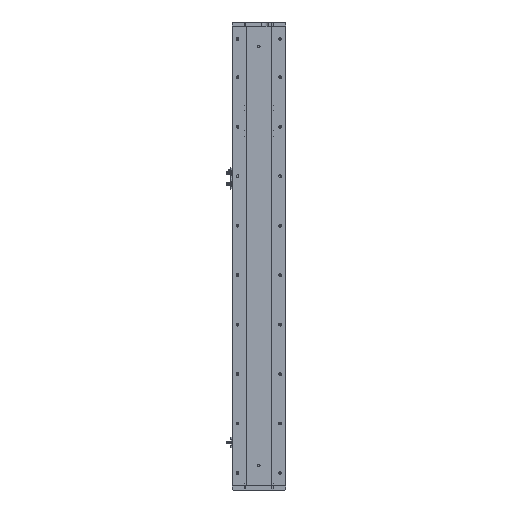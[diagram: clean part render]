
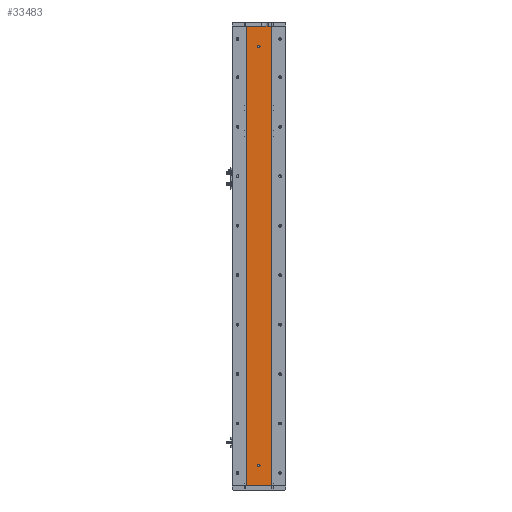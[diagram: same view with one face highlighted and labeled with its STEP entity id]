
A CAD part, left-side view. The second image highlights one B-rep face of the part: STEP entity #33483.
In plain terms, the highlighted planar face has unit normal (-1, 0, 0).
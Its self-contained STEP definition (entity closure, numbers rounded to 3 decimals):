
#201 = CARTESIAN_POINT ( 'NONE',  ( -24.994, 0., 53. ) ) ;
#299 = ORIENTED_EDGE ( 'NONE', *, *, #13416, .F. ) ;
#508 = VERTEX_POINT ( 'NONE', #2919 ) ;
#968 = VERTEX_POINT ( 'NONE', #34479 ) ;
#1280 = VECTOR ( 'NONE', #21510, 1000. ) ;
#1283 = CIRCLE ( 'NONE', #23240, 3. ) ;
#1422 = CARTESIAN_POINT ( 'NONE',  ( -24.994, -29.785, 1115. ) ) ;
#1462 = ORIENTED_EDGE ( 'NONE', *, *, #9052, .F. ) ;
#1669 = AXIS2_PLACEMENT_3D ( 'NONE', #33592, #33749, #34684 ) ;
#2054 = CIRCLE ( 'NONE', #12830, 3. ) ;
#2090 = DIRECTION ( 'NONE',  ( -1., 0., 0. ) ) ;
#2462 = ORIENTED_EDGE ( 'NONE', *, *, #11232, .T. ) ;
#2919 = CARTESIAN_POINT ( 'NONE',  ( -24.994, 29.785, 1115. ) ) ;
#3414 = ORIENTED_EDGE ( 'NONE', *, *, #29045, .F. ) ;
#3775 = LINE ( 'NONE', #30550, #18252 ) ;
#4958 = DIRECTION ( 'NONE',  ( -1., 0., 0. ) ) ;
#5380 = EDGE_CURVE ( 'NONE', #968, #12588, #22991, .T. ) ;
#5494 = FACE_OUTER_BOUND ( 'NONE', #8809, .T. ) ;
#5618 = EDGE_CURVE ( 'NONE', #22829, #7641, #32084, .T. ) ;
#6418 = FACE_BOUND ( 'NONE', #28730, .T. ) ;
#6920 = DIRECTION ( 'NONE',  ( 1., 0., 0. ) ) ;
#7641 = VERTEX_POINT ( 'NONE', #29820 ) ;
#7647 = CARTESIAN_POINT ( 'NONE',  ( -24.994, 0., 1065. ) ) ;
#7930 = DIRECTION ( 'NONE',  ( 0., 0., 1. ) ) ;
#7980 = DIRECTION ( 'NONE',  ( -1., 0., 0. ) ) ;
#8809 = EDGE_LOOP ( 'NONE', ( #16248, #29588, #1462, #2462 ) ) ;
#8945 = LINE ( 'NONE', #30158, #1280 ) ;
#9052 = EDGE_CURVE ( 'NONE', #508, #13375, #8945, .T. ) ;
#10930 = VERTEX_POINT ( 'NONE', #37528 ) ;
#11232 = EDGE_CURVE ( 'NONE', #508, #10930, #3775, .T. ) ;
#12492 = VERTEX_POINT ( 'NONE', #31545 ) ;
#12588 = VERTEX_POINT ( 'NONE', #201 ) ;
#12772 = CARTESIAN_POINT ( 'NONE',  ( -24.994, 0., 1068. ) ) ;
#12830 = AXIS2_PLACEMENT_3D ( 'NONE', #19385, #2090, #22291 ) ;
#13375 = VERTEX_POINT ( 'NONE', #19228 ) ;
#13416 = EDGE_CURVE ( 'NONE', #7641, #22829, #1283, .T. ) ;
#14246 = VECTOR ( 'NONE', #18599, 1000. ) ;
#16034 = AXIS2_PLACEMENT_3D ( 'NONE', #24287, #6920, #27179 ) ;
#16248 = ORIENTED_EDGE ( 'NONE', *, *, #22839, .T. ) ;
#17495 = ORIENTED_EDGE ( 'NONE', *, *, #5618, .F. ) ;
#18252 = VECTOR ( 'NONE', #33326, 1000. ) ;
#18599 = DIRECTION ( 'NONE',  ( 0., -1., 0. ) ) ;
#19228 = CARTESIAN_POINT ( 'NONE',  ( -24.994, -29.785, 1115. ) ) ;
#19385 = CARTESIAN_POINT ( 'NONE',  ( -24.994, 0., 50. ) ) ;
#20691 = EDGE_LOOP ( 'NONE', ( #3414, #22007 ) ) ;
#20846 = LINE ( 'NONE', #1422, #35387 ) ;
#21510 = DIRECTION ( 'NONE',  ( 0., -1., 0. ) ) ;
#21938 = LINE ( 'NONE', #30128, #14246 ) ;
#22007 = ORIENTED_EDGE ( 'NONE', *, *, #5380, .F. ) ;
#22265 = CARTESIAN_POINT ( 'NONE',  ( -24.994, 0., 1065. ) ) ;
#22291 = DIRECTION ( 'NONE',  ( 0., 0., 1. ) ) ;
#22829 = VERTEX_POINT ( 'NONE', #12772 ) ;
#22839 = EDGE_CURVE ( 'NONE', #10930, #12492, #21938, .T. ) ;
#22991 = CIRCLE ( 'NONE', #1669, 3. ) ;
#23240 = AXIS2_PLACEMENT_3D ( 'NONE', #22265, #4958, #25192 ) ;
#24287 = CARTESIAN_POINT ( 'NONE',  ( -24.994, 29.785, 1115. ) ) ;
#25192 = DIRECTION ( 'NONE',  ( 0., 0., 1. ) ) ;
#27046 = PLANE ( 'NONE',  #16034 ) ;
#27179 = DIRECTION ( 'NONE',  ( 0., 0., -1. ) ) ;
#27683 = FACE_BOUND ( 'NONE', #20691, .T. ) ;
#28730 = EDGE_LOOP ( 'NONE', ( #17495, #299 ) ) ;
#29045 = EDGE_CURVE ( 'NONE', #12588, #968, #2054, .T. ) ;
#29588 = ORIENTED_EDGE ( 'NONE', *, *, #35220, .F. ) ;
#29820 = CARTESIAN_POINT ( 'NONE',  ( -24.994, 0., 1062. ) ) ;
#30128 = CARTESIAN_POINT ( 'NONE',  ( -24.994, 29.785, 0. ) ) ;
#30158 = CARTESIAN_POINT ( 'NONE',  ( -24.994, 29.785, 1115. ) ) ;
#30550 = CARTESIAN_POINT ( 'NONE',  ( -24.994, 29.785, 1115. ) ) ;
#31545 = CARTESIAN_POINT ( 'NONE',  ( -24.994, -29.785, 0. ) ) ;
#32084 = CIRCLE ( 'NONE', #32734, 3. ) ;
#32734 = AXIS2_PLACEMENT_3D ( 'NONE', #7647, #7980, #7930 ) ;
#33195 = DIRECTION ( 'NONE',  ( 0., 0., -1. ) ) ;
#33326 = DIRECTION ( 'NONE',  ( 0., 0., -1. ) ) ;
#33483 = ADVANCED_FACE ( 'NONE', ( #6418, #27683, #5494 ), #27046, .F. ) ;
#33592 = CARTESIAN_POINT ( 'NONE',  ( -24.994, 0., 50. ) ) ;
#33749 = DIRECTION ( 'NONE',  ( -1., 0., 0. ) ) ;
#34479 = CARTESIAN_POINT ( 'NONE',  ( -24.994, 0., 47. ) ) ;
#34684 = DIRECTION ( 'NONE',  ( 0., 0., 1. ) ) ;
#35220 = EDGE_CURVE ( 'NONE', #13375, #12492, #20846, .T. ) ;
#35387 = VECTOR ( 'NONE', #33195, 1000. ) ;
#37528 = CARTESIAN_POINT ( 'NONE',  ( -24.994, 29.785, 0. ) ) ;
